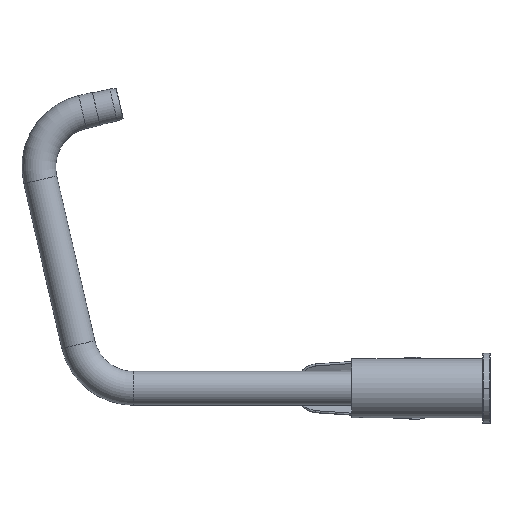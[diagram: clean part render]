
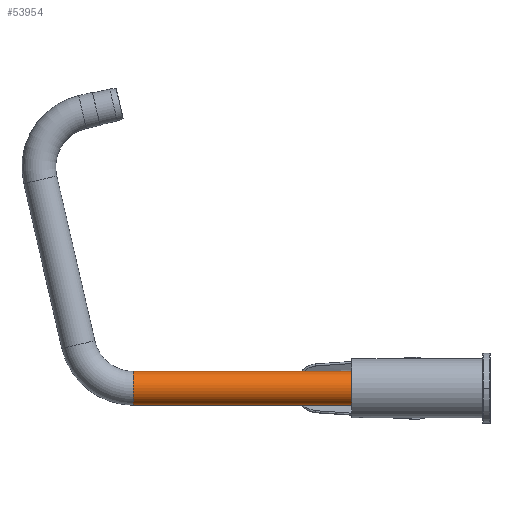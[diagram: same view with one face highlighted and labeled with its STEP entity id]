
A CAD part, left-side view. The second image highlights one B-rep face of the part: STEP entity #53954.
In plain terms, the highlighted cylindrical face has radius 12 mm (diameter 24 mm), a partial arc.
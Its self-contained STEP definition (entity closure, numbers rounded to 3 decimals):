
#52886=DIRECTION('',(0.,1.,0.));
#52887=VECTOR('',#52886,155.);
#52888=CARTESIAN_POINT('',(0.,95.,12.));
#52889=LINE('',#52888,#52887);
#52895=CARTESIAN_POINT('',(0.,95.,0.));
#52896=DIRECTION('',(0.,1.,0.));
#52897=DIRECTION('',(0.,0.,-1.));
#52898=AXIS2_PLACEMENT_3D('',#52895,#52896,#52897);
#52910=DIRECTION('',(0.,1.,0.));
#52911=VECTOR('',#52910,155.);
#52912=CARTESIAN_POINT('',(0.,95.,-12.));
#52913=LINE('',#52912,#52911);
#52914=CARTESIAN_POINT('',(0.,250.,0.));
#52915=DIRECTION('',(0.,1.,0.));
#52916=DIRECTION('',(0.,0.,-1.));
#52917=AXIS2_PLACEMENT_3D('',#52914,#52915,#52916);
#53508=CARTESIAN_POINT('',(0.,95.,12.));
#53509=CARTESIAN_POINT('',(0.,95.,-12.));
#53510=VERTEX_POINT('',#53508);
#53511=VERTEX_POINT('',#53509);
#53512=CARTESIAN_POINT('',(0.,250.,12.));
#53513=CARTESIAN_POINT('',(0.,250.,-12.));
#53514=VERTEX_POINT('',#53512);
#53515=VERTEX_POINT('',#53513);
#53942=CARTESIAN_POINT('',(0.,95.,0.));
#53943=DIRECTION('',(0.,1.,0.));
#53944=DIRECTION('',(0.,0.,1.));
#53945=AXIS2_PLACEMENT_3D('',#53942,#53943,#53944);
#53946=CYLINDRICAL_SURFACE('',#53945,12.);
#53947=ORIENTED_EDGE('',*,*,#53931,.F.);
#53948=ORIENTED_EDGE('',*,*,#53920,.T.);
#53950=ORIENTED_EDGE('',*,*,#53949,.T.);
#53951=ORIENTED_EDGE('',*,*,#53917,.F.);
#53952=EDGE_LOOP('',(#53947,#53948,#53950,#53951));
#53953=FACE_OUTER_BOUND('',#53952,.F.);
#53954=ADVANCED_FACE('',(#53953),#53946,.T.);
#52899=CIRCLE('',#52898,12.);
#52918=CIRCLE('',#52917,12.);
#53917=EDGE_CURVE('',#53510,#53514,#52889,.T.);
#53920=EDGE_CURVE('',#53511,#53515,#52913,.T.);
#53931=EDGE_CURVE('',#53511,#53510,#52899,.T.);
#53949=EDGE_CURVE('',#53515,#53514,#52918,.T.);
